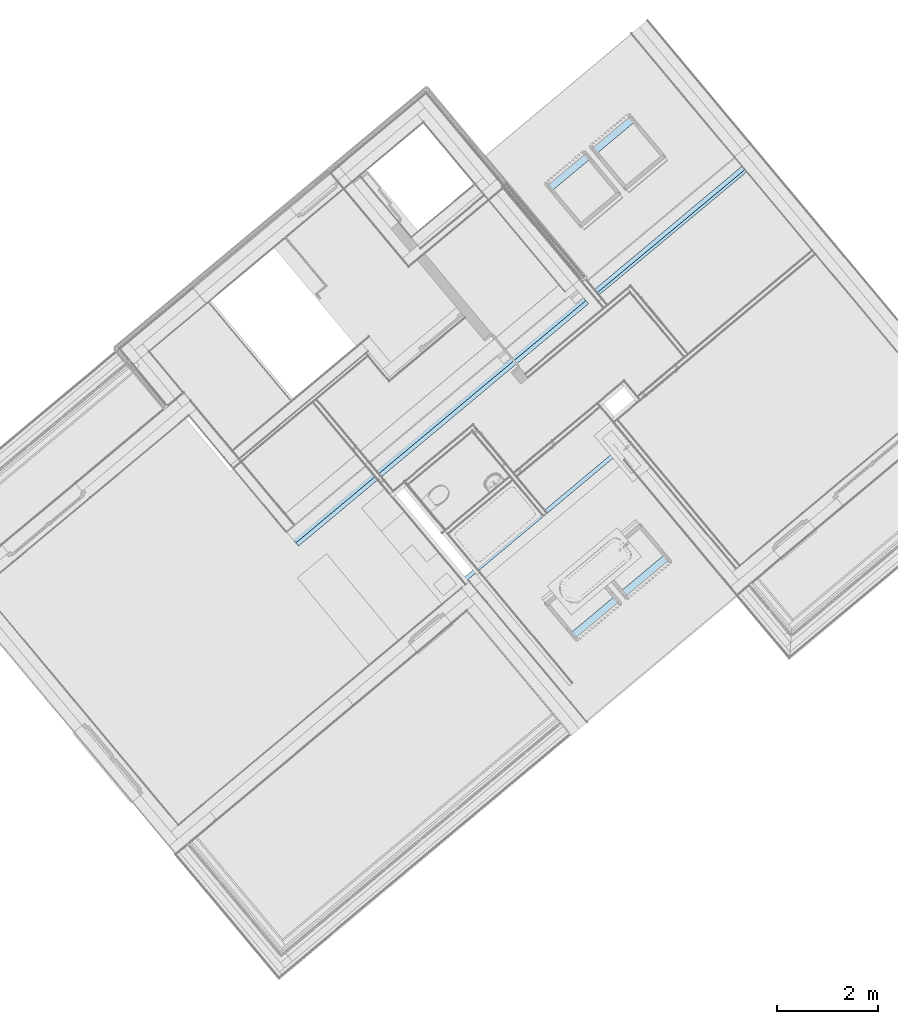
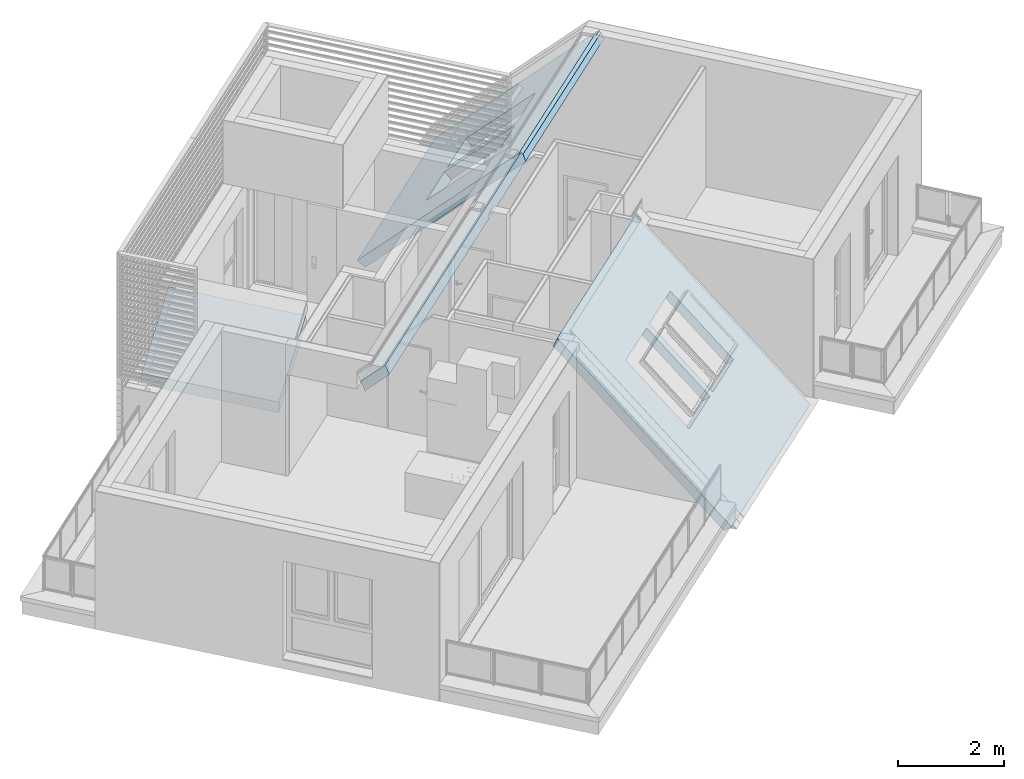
# One storey, part 6 of 47: 4 roofs.
"""IFC4 building model written with IfcOpenShell, lengths in metres."""

from ifc_helpers import new_model, entity, si_unit, converted_unit, derived_unit, direction, frame, origin_with_axes, place, context, subcontext, project, spatial, polygons, material, type_object, element, save


model = new_model("IFC4")

# Units and contexts
model_context = context("Model", 3, precision=1e-05, world=origin_with_axes(), true_north=direction((0.0, 1.0)))
body_context = subcontext(model_context, "Body", "Model", "MODEL_VIEW")
ifc_project = project(units=[si_unit("LENGTHUNIT", "METRE"), si_unit("AREAUNIT", "SQUARE_METRE"), si_unit("VOLUMEUNIT", "CUBIC_METRE"), converted_unit("PLANEANGLEUNIT", "DEGREE", entity("IfcPlaneAngleMeasure", 0.0174532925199), si_unit("PLANEANGLEUNIT", "RADIAN"), dimensions=[0, 0, 0, 0, 0, 0, 0]), converted_unit("TIMEUNIT", "Year", entity("IfcTimeMeasure", 31556926.0), si_unit("TIMEUNIT", "SECOND"), dimensions=[0, 0, 1, 0, 0, 0, 0]), si_unit("MASSUNIT", "GRAM", prefix="KILO"), si_unit("THERMODYNAMICTEMPERATUREUNIT", "DEGREE_CELSIUS"), si_unit("LUMINOUSINTENSITYUNIT", "LUMEN"), si_unit("ENERGYUNIT", "JOULE", prefix="MEGA"), derived_unit("THERMALCONDUCTANCEUNIT", [(si_unit("POWERUNIT", "WATT"), 1), (si_unit("LENGTHUNIT", "METRE"), -1), (si_unit("THERMODYNAMICTEMPERATUREUNIT", "KELVIN"), -1)]), derived_unit("SPECIFICHEATCAPACITYUNIT", [(si_unit("ENERGYUNIT", "JOULE"), 1), (si_unit("MASSUNIT", "GRAM", prefix="KILO"), -1), (si_unit("THERMODYNAMICTEMPERATUREUNIT", "KELVIN"), -1)]), derived_unit("MASSDENSITYUNIT", [(si_unit("MASSUNIT", "GRAM", prefix="KILO"), 1), (si_unit("VOLUMEUNIT", "CUBIC_METRE"), -1)])], contexts=[model_context])

# Site, building, storey
site_placement = place(None, frame((-0.00153261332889, -0.00661245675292, 0.0), z_axis=(0.0, 0.0, 1.0), x_axis=(1.0, 0.0, 0.0)))
site = spatial("IfcSite", under=ifc_project, at=site_placement, Name="Site", CompositionType="ELEMENT")
building_placement = place(site_placement, origin_with_axes())
building = spatial("IfcBuilding", under=site, at=building_placement, Name="Building", CompositionType="ELEMENT")
storey_placement = place(building_placement, frame((0.0, 0.0, 8.66), z_axis=(0.0, 0.0, 1.0), x_axis=(1.0, 0.0, 0.0)))
storey = spatial("IfcBuildingStorey", under=building, at=storey_placement, Name="DG2", CompositionType="ELEMENT", Elevation=8.66)

# Roofs
ifc_material_1 = material(Name="Stahlbeton Dach")
roof_type_1 = type_object("IfcRoofType", Name="Stahlbeton Dach 200", PredefinedType="NOTDEFINED")
roof_1_placement = place(storey_placement, frame((2.55520287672, 26.2528209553, -0.633764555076), z_axis=(0.0, 0.0, 1.0), x_axis=(0.767429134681, 0.64113377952, 0.0)))
element("IfcRoof", 1, at=roof_1_placement, inside=storey, type_object=roof_type_1, material=ifc_material_1, Name="Dach-001", PredefinedType="NOTDEFINED", context=body_context, shape_type="Tessellation", body=[
    polygons([(4.27476817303, -3.53466658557, 3.81750929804), (4.07496128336, -3.53449179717, 3.81733450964), (4.07496143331, -3.53597052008, 3.81376455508), (4.27476807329, -3.53621770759, 3.81376455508), (4.27476783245, -3.5309218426, 3.81376455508), (4.07496093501, -3.5309218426, 3.81376455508)], [[[1, 2, 3, 4]], [[5, 6, 2, 1]], [[6, 3, 2]], [[6, 5, 4, 3]], [[1, 4, 5]]], closed=True),
    polygons([(4.27446688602, -0.222001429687, 0.504844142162), (4.27476237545, -3.4709218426, 3.75376455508), (4.2747664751, -3.56107050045, 3.75376455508), (4.27476284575, -3.6175092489, 3.61750924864), (4.27446857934, -0.382041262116, 0.382041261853), (-0.00566070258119, -0.223000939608, 0.505843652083), (-0.00645670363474, -3.4709218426, 3.75376455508), (1.86137860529, -2.70569845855, 2.98854117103), (0.861378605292, -2.70569845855, 2.98854117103), (0.861378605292, -1.29432760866, 1.57717032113), (1.86137860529, -1.29432760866, 1.57717032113), (3.01136207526, -2.70569845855, 2.98854117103), (2.01136207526, -2.70569845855, 2.98854117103), (2.01136207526, -1.29655443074, 1.57939714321), (3.01136207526, -1.29655443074, 1.57939714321), (-0.00646710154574, -3.55577403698, 3.75376455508), (-0.00645705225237, -3.61376409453, 3.61376409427), (-0.00566526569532, -0.383040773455, 0.383040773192), (3.01136207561, -1.43797578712, 1.43797578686), (2.01136207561, -1.43797578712, 1.43797578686), (2.01136207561, -2.84711981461, 2.84711981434), (3.01136207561, -2.84711981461, 2.84711981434), (1.86137860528, -1.43574896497, 1.4357489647), (0.861378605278, -1.43574896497, 1.4357489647), (0.861378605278, -2.84711981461, 2.84711981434), (1.86137860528, -2.84711981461, 2.84711981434)], [[[1, 2, 3, 4, 5]], [[6, 7, 2, 1], [8, 9, 10, 11], [12, 13, 14, 15]], [[7, 16, 3, 2]], [[4, 3, 16, 17]], [[5, 4, 17, 18], [19, 20, 21, 22], [23, 24, 25, 26]], [[18, 6, 1, 5]], [[17, 16, 7, 6, 18]], [[25, 9, 8, 26]], [[24, 10, 9, 25]], [[23, 11, 10, 24]], [[26, 8, 11, 23]], [[21, 13, 12, 22]], [[20, 14, 13, 21]], [[19, 15, 14, 20]], [[22, 12, 15, 19]]], closed=True),
])
roof_2_placement = place(storey_placement, frame((-2.37763747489, 20.1437471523, 0.891635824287), z_axis=(0.0, 0.0, 1.0), x_axis=(0.767406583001, 0.641160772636, 0.0)))
element("IfcRoof", 2, at=roof_2_placement, inside=storey, type_object=roof_type_1, material=ifc_material_1, Name="Dach-001", PredefinedType="NOTDEFINED", context=body_context, shape_type="Tessellation", body=[
    polygons([(7.69598614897, -1.51548652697, 1.79832923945), (0.215350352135, -1.51552146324, 1.79836417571), (0.215523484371, -2.00552146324, 2.28836417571), (7.69579703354, -2.00552146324, 2.28836417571), (7.69600875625, -1.59832923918, 1.59832923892), (0.215329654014, -1.59836417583, 1.59836417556), (0.215502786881, -2.08836417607, 2.0883641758), (7.69581964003, -2.08836417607, 2.0883641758)], [[[1, 2, 3, 4]], [[2, 1, 5, 6]], [[3, 2, 6, 7]], [[4, 3, 7, 8]], [[1, 4, 8, 5]], [[6, 5, 8, 7]]], closed=True),
])
roof_3_placement = place(storey_placement, frame((-4.22662517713, 22.4625449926, 1.17239955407), z_axis=(0.0, 0.0, 1.0), x_axis=(0.641209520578, -0.767365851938, 0.0)))
element("IfcRoof", 3, at=roof_3_placement, inside=storey, type_object=roof_type_1, material=ifc_material_1, Name="Dach-001", PredefinedType="NOTDEFINED", context=body_context, shape_type="Tessellation", body=[
    polygons([(2.76105179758, 1.81866869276, 1.51760044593), (0.000462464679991, 1.81866869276, 1.51760044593), (0.000456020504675, 0.347014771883, 0.487137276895), (2.76082686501, 0.347014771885, 0.487137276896), (2.76104390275, 1.88172845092, 1.31760044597), (0.000462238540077, 1.88172845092, 1.31760044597), (0.000455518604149, 0.34701477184, 0.242982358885), (2.76080933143, 0.34701477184, 0.242982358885)], [[[1, 2, 3, 4]], [[2, 1, 5, 6]], [[3, 2, 6, 7]], [[4, 3, 7, 8]], [[1, 4, 8, 5]], [[6, 5, 8, 7]]], closed=True),
])
ifc_material_2 = material(Name="Stahlbeton Decke")
roof_type_2 = type_object("IfcRoofType", Name="Stahlbeton Decke 200", PredefinedType="NOTDEFINED")
roof_4_placement = place(storey_placement, frame((7.92817309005, 17.5488511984, -0.957147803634), z_axis=(0.0, 0.0, 1.0), x_axis=(-0.767011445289, -0.641633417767, 0.0)))
element("IfcRoof", 4, at=roof_4_placement, inside=storey, type_object=roof_type_2, material=ifc_material_2, Name="Dach-001", PredefinedType="NOTDEFINED", context=body_context, shape_type="Tessellation", body=[
    polygons([(-0.22420921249, -0.34536207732, 0.628204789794), (-0.225179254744, -3.85430507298, 4.13714778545), (4.08041501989, -3.8543050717, 4.13714778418), (4.08173405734, -0.345362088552, 0.628204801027), (0.570474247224, -2.86716746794, 3.15001018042), (0.570474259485, -1.59721797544, 1.88006068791), (1.71047424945, -1.5972180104, 1.88006072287), (1.71047431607, -2.86716746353, 3.150010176), (1.86045628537, -2.86949198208, 3.15233469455), (1.86045628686, -1.59954246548, 1.88238517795), (3.00045622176, -1.59954247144, 1.88238518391), (3.00045622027, -2.86949198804, 3.15233470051), (-0.224214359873, -0.505401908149, 0.505401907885), (-0.22516306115, -3.9371477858, 3.93714778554), (4.08043703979, -3.93714778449, 3.93714778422), (4.08172705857, -0.505401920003, 0.505401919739), (0.570474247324, -3.0085888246, 3.00858882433), (0.570474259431, -1.73863933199, 1.73863933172), (1.71047424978, -1.73863936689, 1.73863936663), (1.71047431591, -3.00858881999, 3.00858881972), (1.86045628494, -3.01091333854, 3.01091333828), (1.86045628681, -1.74096382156, 1.7409638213), (3.00045622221, -1.74096382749, 1.74096382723), (3.00045622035, -3.01091334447, 3.0109133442)], [[[1, 2, 3, 4], [5, 6, 7, 8], [9, 10, 11, 12]], [[2, 1, 13, 14]], [[3, 2, 14, 15]], [[4, 3, 15, 16]], [[1, 4, 16, 13]], [[6, 5, 17, 18]], [[7, 6, 18, 19]], [[8, 7, 19, 20]], [[5, 8, 20, 17]], [[10, 9, 21, 22]], [[11, 10, 22, 23]], [[12, 11, 23, 24]], [[9, 12, 24, 21]], [[14, 13, 16, 15], [22, 21, 24, 23], [18, 17, 20, 19]]], closed=True),
])

save(model, "model.ifc")
